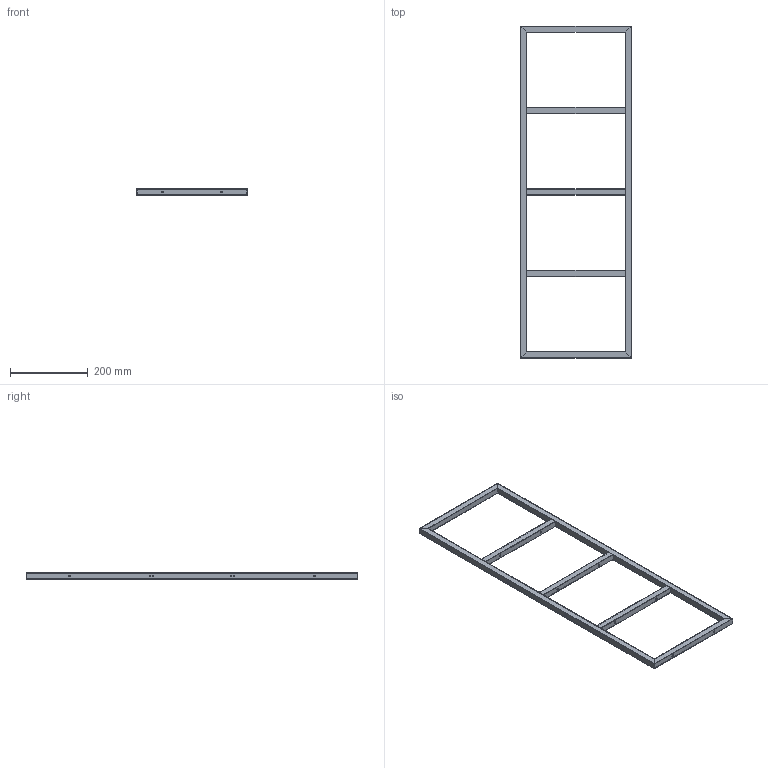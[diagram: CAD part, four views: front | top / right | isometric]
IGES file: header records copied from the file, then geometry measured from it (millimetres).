
Start section: SolidWorks IGES file using analytic representation for surfaces
Bounding box: 286 x 856 x 16 mm (x, y, z)
Surface area: 342110.4 mm2 (no closed solid volume)
Topology: 0 solids, 0 shells, 154 faces, 2576 edges, 2576 vertices
Faces by surface type: bspline 78, revolution 76
